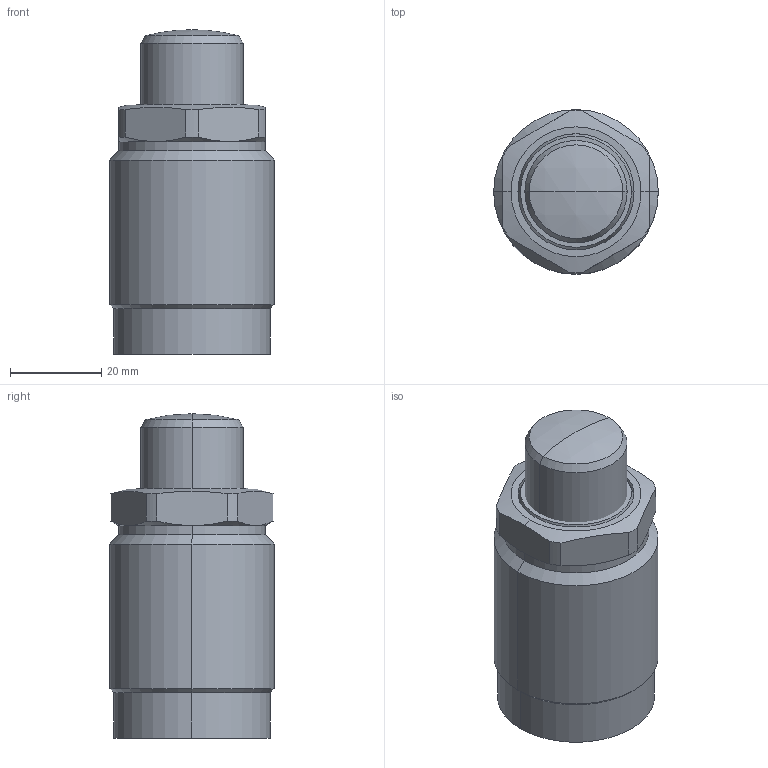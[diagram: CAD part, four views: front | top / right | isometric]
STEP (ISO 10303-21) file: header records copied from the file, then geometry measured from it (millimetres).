
FILE_DESCRIPTION (( 'STEP AP203' ), '1' );
FILE_NAME ('650361-RM.step', '2016-11-02T03:14:31', ( 'wxp' ), ( '' ), 'SwSTEP 2.0', 'SolidWorks 2011', '' );
FILE_SCHEMA (( 'CONFIG_CONTROL_DESIGN' ));
Length unit declared in the file: millimetre
Products named in the file (3): 650361-RM; 葩璃 650361-RM.sldasm-Part-2^650361-RM; 葩璃 650361-RM.sldasm-Part-1^650361-RM
Assembly tree (2 placements, depth 2):
  650361-RM
    葩璃 650361-RM.sldasm-Part-1^650361-RM
    葩璃 650361-RM.sldasm-Part-2^650361-RM
Bounding box: 36 x 36 x 71 mm (x, y, z)
Volume: 59158.4 mm3; surface area: 10632.1 mm2
Topology: 2 solids, 2 shells, 70 faces, 160 edges, 97 vertices
Faces by surface type: cylinder 26, plane 20, cone 16, torus 6, sphere 2
Entity records: 2347 total; most frequent: CARTESIAN_POINT 480, DIRECTION 356, ORIENTED_EDGE 312, AXIS2_PLACEMENT_3D 157, EDGE_CURVE 156, VERTEX_POINT 97, CIRCLE 82, EDGE_LOOP 77
